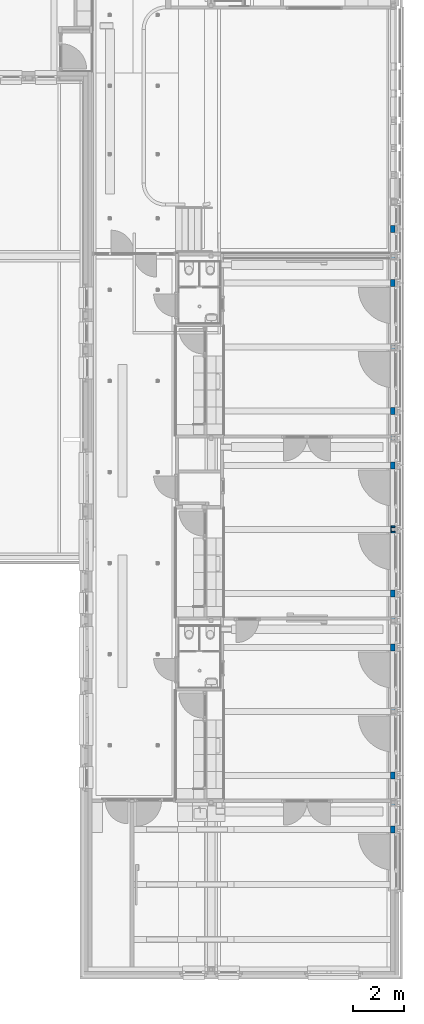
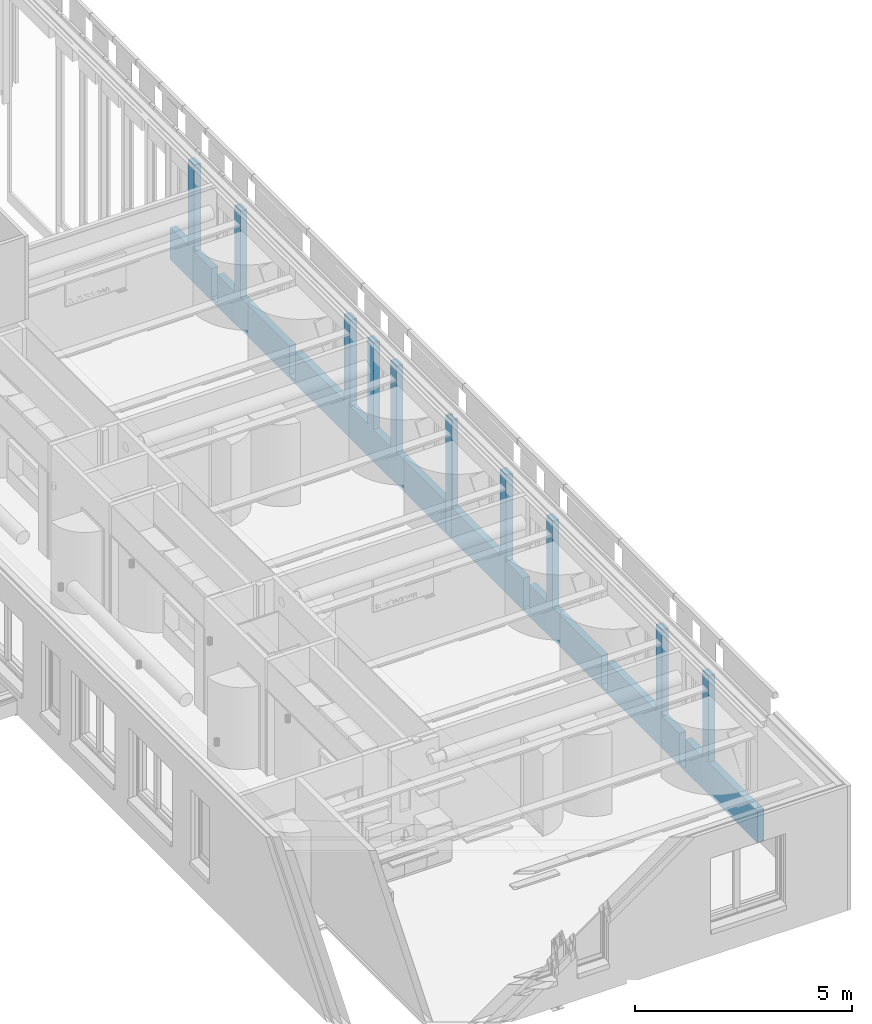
# One storey, part 38 of 128: 4 walls, 47 openings.
"""IFC2X3 building model written with IfcOpenShell, lengths in millimetres."""

import ifcopenshell
import ifcopenshell.guid

model = None  # the IFC model being written
_history = None  # IfcOwnerHistory: only IFC2X3 demands one
_inside = {}  # id of a spatial element -> (the spatial element, [elements in it])
_under = {}  # id of a project, library or spatial element -> (it, [spatial elements below it])
_declared = {}  # id of a project -> (the project, [libraries it declares])
_typed = {}  # id of a type object -> (the type object, [elements of that type])
_made_of = {}  # id of a material, layer set ... -> (it, [elements and type objects made of it])


def new_model(schema):
    """Start an empty IFC model of exactly this schema.

    Asked for "IFC4X3", IfcOpenShell would pick the latest addendum, in which some entities
    have other attributes; the version numbers below select the first issue.
    IFC2X3 requires an IfcOwnerHistory on every rooted entity: one is made here for all.
    """
    global model, _history
    if schema == "IFC4X3":
        model = ifcopenshell.file(schema_version=(4, 3, 0, 0))
    else:
        model = ifcopenshell.file(schema=schema)
    _inside.clear()
    _under.clear()
    _declared.clear()
    _typed.clear()
    _made_of.clear()
    _history = None
    if model.schema == "IFC2X3":
        org = make("IfcOrganization", Name="unknown")
        user = make(
            "IfcPersonAndOrganization",
            ThePerson=make("IfcPerson", FamilyName="unknown"),
            TheOrganization=org,
        )
        app = make(
            "IfcApplication",
            ApplicationDeveloper=org,
            Version="unknown",
            ApplicationFullName="unknown",
            ApplicationIdentifier="unknown",
        )
        _history = make(
            "IfcOwnerHistory",
            OwningUser=user,
            OwningApplication=app,
            ChangeAction="ADDED",
            CreationDate=0,
        )
    return model


def make(cls, **values):
    """One entity of the class cls with the attributes given. An attribute that is None is left unset."""
    return model.create_entity(
        cls, **{name: value for name, value in values.items() if value is not None}
    )


def entity(cls, *values):
    """Any entity or typed value of the class cls, its attributes in the order of the schema. None: left unset."""
    e = model.create_entity(cls)
    for i, value in enumerate(values):
        if value is not None:
            e[i] = value
    return e


def rooted(cls, **values):
    """An entity with a GlobalId (a new one), such as an element, a storey or a relation."""
    return make(cls, GlobalId=ifcopenshell.guid.new(), OwnerHistory=_history, **values)


def si_unit(unit_type, name, prefix=None):
    """IfcSIUnit, for example si_unit("LENGTHUNIT", "METRE", prefix="MILLI")."""
    return make("IfcSIUnit", UnitType=unit_type, Prefix=prefix, Name=name)


def converted_unit(unit_type, name, factor, base, dimensions=None, offset=None):
    """IfcConversionBasedUnit, such as the inch: factor (a typed value) times the base unit."""
    return make(
        "IfcConversionBasedUnit"
        if offset is None
        else "IfcConversionBasedUnitWithOffset",
        ConversionOffset=offset,
        Dimensions=None
        if dimensions is None
        else entity("IfcDimensionalExponents", *dimensions),
        UnitType=unit_type,
        Name=name,
        ConversionFactor=make(
            "IfcMeasureWithUnit", ValueComponent=factor, UnitComponent=base
        ),
    )


def derived_unit(unit_type, elements):
    """IfcDerivedUnit: a product of units, each with its exponent."""
    return make(
        "IfcDerivedUnit",
        Elements=[
            make("IfcDerivedUnitElement", Unit=unit, Exponent=power)
            for unit, power in elements
        ],
        UnitType=unit_type,
    )


def assignment(units):
    """IfcUnitAssignment: the units of a project."""
    return None if units is None else make("IfcUnitAssignment", Units=units)


def point(xyz):
    """IfcCartesianPoint."""
    return None if xyz is None else make("IfcCartesianPoint", Coordinates=xyz)


def direction(xyz):
    """IfcDirection."""
    return None if xyz is None else make("IfcDirection", DirectionRatios=xyz)


def frame(location, z_axis=None, x_axis=None):
    """IfcAxis2Placement3D, a coordinate frame: its origin and axes. An axis left out is left unset."""
    return make(
        "IfcAxis2Placement3D",
        Location=point(location),
        Axis=direction(z_axis),
        RefDirection=direction(x_axis),
    )


def frame_2d(location, x_axis=None):
    """IfcAxis2Placement2D, a coordinate frame in the plane: its origin and x axis."""
    return make(
        "IfcAxis2Placement2D", Location=point(location), RefDirection=direction(x_axis)
    )


def origin():
    """The frame at (0, 0, 0) with its axes left unset."""
    return frame((0.0, 0.0, 0.0))


def origin_2d_with_axis():
    """The frame at (0, 0) in the plane with the x axis (1, 0) written out."""
    return frame_2d((0.0, 0.0), x_axis=(1.0, 0.0))


def place(relative_to, where):
    """IfcLocalPlacement: puts the frame where relative to a parent placement (None: the world)."""
    return make(
        "IfcLocalPlacement", PlacementRelTo=relative_to, RelativePlacement=where
    )


def context(
    kind, dimensions, precision=None, world=None, true_north=None, identifier=None
):
    """IfcGeometricRepresentationContext, for example the 3D "Model" context."""
    return make(
        "IfcGeometricRepresentationContext",
        ContextIdentifier=identifier,
        ContextType=kind,
        CoordinateSpaceDimension=dimensions,
        Precision=precision,
        WorldCoordinateSystem=world,
        TrueNorth=true_north,
    )


def subcontext(parent, identifier, kind, view, scale=None):
    """IfcGeometricRepresentationSubContext, for example "Body" below "Model"."""
    return make(
        "IfcGeometricRepresentationSubContext",
        ContextIdentifier=identifier,
        ContextType=kind,
        ParentContext=parent,
        TargetScale=scale,
        TargetView=view,
    )


def project(units=None, contexts=None):
    """IfcProject with its units and contexts."""
    return rooted(
        "IfcProject",
        Name="project",
        RepresentationContexts=contexts,
        UnitsInContext=assignment(units),
    )


def spatial(cls, under=None, at=None, **own):
    """A site, building, storey or space (cls), placed at a placement, below another one or the project."""
    s = rooted(cls, ObjectPlacement=at, **own)
    if under is not None:
        _under.setdefault(under.id(), (under, []))[1].append(s)
    return s


def profile(cls, at=None, kind="AREA", **sizes):
    """A parametric profile (cls). Its sizes go by their IFC names, for example OverallWidth=200.0."""
    return make(cls, ProfileType=kind, Position=at, **sizes)


def rectangle(**sizes):
    """IfcRectangleProfileDef."""
    return profile("IfcRectangleProfileDef", **sizes)


def extrude(swept, where, along, depth):
    """IfcExtrudedAreaSolid: the profile swept, set in the frame where, extruded along a direction by depth."""
    return make(
        "IfcExtrudedAreaSolid",
        SweptArea=swept,
        Position=where,
        ExtrudedDirection=direction(along),
        Depth=depth,
    )


def shape(context_of_items, identifier, shape_type, items):
    """IfcShapeRepresentation: the items that make up one representation, for example the "Body"."""
    return make(
        "IfcShapeRepresentation",
        ContextOfItems=context_of_items,
        RepresentationIdentifier=identifier,
        RepresentationType=shape_type,
        Items=items,
    )


def material(Name=None, Category=None):
    """IfcMaterial."""
    return make("IfcMaterial", Name=Name, Category=Category)


def layer(
    of_material, thickness, ventilated=None, Name=None, Category=None, Priority=None
):
    """IfcMaterialLayer: one layer of a wall or slab, of a material (None: an air gap)."""
    return make(
        "IfcMaterialLayer",
        Material=of_material,
        LayerThickness=thickness,
        IsVentilated=ventilated,
        Name=Name,
        Category=Category,
        Priority=Priority,
    )


def layer_set(layers, Name=None):
    """IfcMaterialLayerSet."""
    return make("IfcMaterialLayerSet", MaterialLayers=layers, LayerSetName=Name)


def layer_usage(for_layer_set, set_direction, sense, offset, extent=None):
    """IfcMaterialLayerSetUsage: how a layer set lies in its element."""
    return make(
        "IfcMaterialLayerSetUsage",
        ForLayerSet=for_layer_set,
        LayerSetDirection=set_direction,
        DirectionSense=sense,
        OffsetFromReferenceLine=offset,
        ReferenceExtent=extent,
    )


def made_of(thing, what):
    """Note that an element or type object is made of a material, layer set ...; save() writes the relation."""
    if what is not None:
        _made_of.setdefault(what.id(), (what, []))[1].append(thing)
    return thing


def type_object(cls, material=None, **own):
    """A type object (cls), such as IfcWallType, which elements share."""
    return made_of(rooted(cls, **own), material)


def element(
    cls,
    number,
    at=None,
    inside=None,
    cuts=None,
    type_object=None,
    material=None,
    context=None,
    identifier="Body",
    shape_type=None,
    held_by="IfcProductDefinitionShape",
    body=None,
    shapes=None,
    **own,
):
    """One element of the class cls, such as IfcWall. Its Tag is "e" and its number.

    at: its placement. inside: the storey or other place that contains it. cuts: it is an
    opening in that element (IfcRelVoidsElement). A single representation is given by context,
    identifier, shape_type and body (its items); several are given by shapes. held_by: the class
    of the entity that holds the representations. save() writes the other relations.
    """
    e = rooted(cls, Tag="e%d" % number, ObjectPlacement=at, **own)
    if body is not None:
        shapes = [shape(context, identifier, shape_type, body)]
    if shapes is not None:
        e.Representation = make(held_by, Representations=shapes)
    if inside is not None:
        _inside.setdefault(inside.id(), (inside, []))[1].append(e)
    if cuts is not None:
        rooted(
            "IfcRelVoidsElement", RelatingBuildingElement=cuts, RelatedOpeningElement=e
        )
    if type_object is not None:
        _typed.setdefault(type_object.id(), (type_object, []))[1].append(e)
    return made_of(e, material)


def aggregate(whole, parts):
    """IfcRelAggregates: a whole, such as a stair, and the parts it consists of."""
    return rooted("IfcRelAggregates", RelatingObject=whole, RelatedObjects=parts)


def save(model, path):
    """Write the relations noted so far, then the file.

    IfcRelAggregates (storeys below a building ...), IfcRelContainedInSpatialStructure (elements
    in a storey), IfcRelDefinesByType, IfcRelAssociatesMaterial and IfcRelDeclares: one each for
    every whole, place, type object, material and project.
    """
    for whole, parts in _under.values():
        aggregate(whole, parts)
    for where, things in _inside.values():
        rooted(
            "IfcRelContainedInSpatialStructure",
            RelatedElements=things,
            RelatingStructure=where,
        )
    for kind, things in _typed.values():
        rooted("IfcRelDefinesByType", RelatedObjects=things, RelatingType=kind)
    for what, things in _made_of.values():
        rooted("IfcRelAssociatesMaterial", RelatedObjects=things, RelatingMaterial=what)
    for by, libraries in _declared.values():
        rooted("IfcRelDeclares", RelatingContext=by, RelatedDefinitions=libraries)
    model.write(path)


model = new_model("IFC2X3")

# Units and contexts
model_context = context("Model", 3, precision=0.01, world=origin(), true_north=direction((6.123031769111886e-17, 1.0)))
body_context = subcontext(model_context, "Body", "Model", "MODEL_VIEW")
ifc_project = project(units=[si_unit("LENGTHUNIT", "METRE", prefix="MILLI"), si_unit("AREAUNIT", "SQUARE_METRE"), si_unit("VOLUMEUNIT", "CUBIC_METRE"), converted_unit("PLANEANGLEUNIT", "DEGREE", entity("IfcRatioMeasure", 0.017453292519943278), si_unit("PLANEANGLEUNIT", "RADIAN"), dimensions=[0, 0, 0, 0, 0, 0, 0]), si_unit("MASSUNIT", "GRAM", prefix="KILO"), derived_unit("MASSDENSITYUNIT", [(si_unit("MASSUNIT", "GRAM", prefix="KILO"), 1), (si_unit("LENGTHUNIT", "METRE"), -3)]), derived_unit("IONCONCENTRATIONUNIT", [(si_unit("MASSUNIT", "GRAM", prefix="KILO"), 1), (si_unit("LENGTHUNIT", "METRE"), -3)]), derived_unit("MOMENTOFINERTIAUNIT", [(si_unit("LENGTHUNIT", "METRE"), 4)]), si_unit("TIMEUNIT", "SECOND"), si_unit("FREQUENCYUNIT", "HERTZ"), si_unit("THERMODYNAMICTEMPERATUREUNIT", "DEGREE_CELSIUS"), derived_unit("THERMALTRANSMITTANCEUNIT", [(si_unit("MASSUNIT", "GRAM", prefix="KILO"), 1), (si_unit("THERMODYNAMICTEMPERATUREUNIT", "KELVIN"), -1), (si_unit("TIMEUNIT", "SECOND"), -3)]), derived_unit("THERMALCONDUCTANCEUNIT", [(si_unit("MASSUNIT", "GRAM", prefix="KILO"), 1), (si_unit("THERMODYNAMICTEMPERATUREUNIT", "KELVIN"), -1), (si_unit("TIMEUNIT", "SECOND"), -3), (si_unit("LENGTHUNIT", "METRE"), 1)]), derived_unit("VOLUMETRICFLOWRATEUNIT", [(si_unit("LENGTHUNIT", "METRE"), 3), (si_unit("TIMEUNIT", "SECOND"), -1)]), derived_unit("MASSFLOWRATEUNIT", [(si_unit("MASSUNIT", "GRAM", prefix="KILO"), 1), (si_unit("TIMEUNIT", "SECOND"), -1)]), derived_unit("ROTATIONALFREQUENCYUNIT", [(si_unit("TIMEUNIT", "SECOND"), -1)]), si_unit("ELECTRICCURRENTUNIT", "AMPERE"), si_unit("ELECTRICVOLTAGEUNIT", "VOLT"), si_unit("POWERUNIT", "WATT"), si_unit("FORCEUNIT", "NEWTON", prefix="KILO"), si_unit("ILLUMINANCEUNIT", "LUX"), si_unit("LUMINOUSFLUXUNIT", "LUMEN"), si_unit("LUMINOUSINTENSITYUNIT", "CANDELA"), derived_unit("USERDEFINED", [(si_unit("MASSUNIT", "GRAM", prefix="KILO"), -1), (si_unit("LENGTHUNIT", "METRE"), -2), (si_unit("TIMEUNIT", "SECOND"), 3), (si_unit("LUMINOUSFLUXUNIT", "LUMEN"), 1)]), derived_unit("USERDEFINED", [(si_unit("MASSUNIT", "GRAM", prefix="KILO"), 1), (si_unit("TIMEUNIT", "SECOND"), -3), (si_unit("LENGTHUNIT", "METRE"), 3), (si_unit("ELECTRICCURRENTUNIT", "AMPERE"), -2)]), derived_unit("SOUNDPOWERUNIT", [(si_unit("MASSUNIT", "GRAM", prefix="KILO"), 1), (si_unit("TIMEUNIT", "SECOND"), -3), (si_unit("LENGTHUNIT", "METRE"), 2)]), derived_unit("SOUNDPRESSUREUNIT", [(si_unit("MASSUNIT", "GRAM", prefix="KILO"), 1), (si_unit("LENGTHUNIT", "METRE"), -1), (si_unit("TIMEUNIT", "SECOND"), -2)]), derived_unit("LINEARVELOCITYUNIT", [(si_unit("LENGTHUNIT", "METRE"), 1), (si_unit("TIMEUNIT", "SECOND"), -1)]), si_unit("PRESSUREUNIT", "PASCAL"), derived_unit("USERDEFINED", [(si_unit("MASSUNIT", "GRAM", prefix="KILO"), 1), (si_unit("LENGTHUNIT", "METRE"), -2), (si_unit("TIMEUNIT", "SECOND"), -2)]), derived_unit("LINEARFORCEUNIT", [(si_unit("MASSUNIT", "GRAM", prefix="KILO"), 1), (si_unit("TIMEUNIT", "SECOND"), -2)]), derived_unit("PLANARFORCEUNIT", [(si_unit("MASSUNIT", "GRAM", prefix="KILO"), 1), (si_unit("LENGTHUNIT", "METRE"), -1), (si_unit("TIMEUNIT", "SECOND"), -2)]), derived_unit("SPECIFICHEATCAPACITYUNIT", [(si_unit("THERMODYNAMICTEMPERATUREUNIT", "KELVIN"), -1), (si_unit("LENGTHUNIT", "METRE"), 2), (si_unit("TIMEUNIT", "SECOND"), -2)]), derived_unit("HEATINGVALUEUNIT", [(si_unit("LENGTHUNIT", "METRE"), 2), (si_unit("TIMEUNIT", "SECOND"), -2)]), derived_unit("VAPORPERMEABILITYUNIT", [(si_unit("LENGTHUNIT", "METRE"), -1), (si_unit("TIMEUNIT", "SECOND"), 1)]), derived_unit("DYNAMICVISCOSITYUNIT", [(si_unit("MASSUNIT", "GRAM", prefix="KILO"), 1), (si_unit("TIMEUNIT", "SECOND"), -1), (si_unit("LENGTHUNIT", "METRE"), -1)]), derived_unit("THERMALEXPANSIONCOEFFICIENTUNIT", [(si_unit("THERMODYNAMICTEMPERATUREUNIT", "KELVIN"), -1)]), derived_unit("MODULUSOFELASTICITYUNIT", [(si_unit("MASSUNIT", "GRAM", prefix="KILO"), 1), (si_unit("LENGTHUNIT", "METRE"), -1), (si_unit("TIMEUNIT", "SECOND"), -2)]), derived_unit("ISOTHERMALMOISTURECAPACITYUNIT", [(si_unit("LENGTHUNIT", "METRE"), 3), (si_unit("MASSUNIT", "GRAM", prefix="KILO"), -1)]), derived_unit("MOISTUREDIFFUSIVITYUNIT", [(si_unit("TIMEUNIT", "SECOND"), -1), (si_unit("LENGTHUNIT", "METRE"), 2)])], contexts=[model_context])

# Site, building, storey
site_placement = place(None, frame((0.0, 300.0, 0.0)))
site = spatial("IfcSite", under=ifc_project, at=site_placement, Name="<Kadastrale nummers>", CompositionType="ELEMENT")
building_placement = place(site_placement, origin())
building = spatial("IfcBuilding", under=site, at=building_placement, CompositionType="ELEMENT")
storey_placement = place(building_placement, frame((0.0, 0.0, 3560.0000331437)))
storey = spatial("IfcBuildingStorey", under=building, at=storey_placement, Name="01 eerste verdieping", CompositionType="ELEMENT", Elevation=3560.0000331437)

# Wall
ifc_material_1 = material(Name="ISR_Gips")
ifc_layer_1 = layer(ifc_material_1, 1.0)
ifc_material_2 = material(Name="ISR_Binnenwand")
ifc_layer_2 = layer(ifc_material_2, 23.0)
ifc_layer_3 = layer(ifc_material_1, 1.0)
ifc_layer_set_1 = layer_set([ifc_layer_1, ifc_layer_2, ifc_layer_3], Name="Basic Wall:22_DAT_binnenwand_25")
ifc_layer_usage_1 = layer_usage(ifc_layer_set_1, "AXIS2", "POSITIVE", -12.499999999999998)
wall_type_1 = type_object("IfcWallType", Name="Basic Wall:22_DAT_binnenwand_25", PredefinedType="STANDARD", material=ifc_layer_set_1)
wall_1_placement = place(storey_placement, frame((48512.49999999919, 19960.0, 90.00000187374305), z_axis=(0.0, 0.0, 1.0), x_axis=(0.0, 1.0, 0.0)))
element("IfcWallStandardCase", 1, at=wall_1_placement, inside=storey, type_object=wall_type_1, material=ifc_layer_usage_1, Name="Basic Wall:22_DAT_binnenwand_25", ObjectType="Basic Wall:22_DAT_binnenwand_25", context=body_context, shape_type="SweptSolid", body=[
    extrude(rectangle(XDim=279.99999999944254, YDim=24.999999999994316, at=frame_2d((139.9999999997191, 7.194245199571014e-14), x_axis=(-1.0, 0.0))), origin(), (0.0, 0.0, 1.0), 3240.000000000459),
])

# Wall, openings
ifc_layer_4 = layer(ifc_material_1, 1.0)
ifc_material_3 = material(Name="ISR_Kalkzandsteen")
ifc_layer_5 = layer(ifc_material_3, 173.0)
ifc_layer_6 = layer(ifc_material_1, 1.0)
ifc_layer_set_2 = layer_set([ifc_layer_4, ifc_layer_5, ifc_layer_6], Name="Basic Wall:28_DAT_kalkzandsteen_175mm")
ifc_layer_usage_2 = layer_usage(ifc_layer_set_2, "AXIS2", "POSITIVE", -87.49999999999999)
wall_type_2 = type_object("IfcWallType", Name="Basic Wall:28_DAT_kalkzandsteen_175mm", PredefinedType="STANDARD", material=ifc_layer_set_2)
wall_2_placement = place(storey_placement, frame((48587.50000000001, 5840.0, 0.0), z_axis=(0.0, 0.0, 1.0), x_axis=(0.0, 1.0, 0.0)))
wall_2 = element("IfcWallStandardCase", 2, at=wall_2_placement, inside=storey, type_object=wall_type_2, material=ifc_layer_usage_2, Name="Basic Wall:28_DAT_kalkzandsteen_175mm", ObjectType="Basic Wall:28_DAT_kalkzandsteen_175mm", context=body_context, shape_type="SweptSolid", body=[
    extrude(rectangle(XDim=27105.00000000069, YDim=175.00000000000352, at=frame_2d((13552.500000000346, -4.334310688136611e-12), x_axis=(-1.0, 0.0))), origin(), (0.0, 0.0, 1.0), 3330.0000018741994),
])
opening_1_placement = place(wall_2_placement, origin())
element("IfcOpeningElement", 3, at=opening_1_placement, cuts=wall_2, Name="Basic Wall:28_DAT_kalkzandsteen_175mm", ObjectType="Opening", context=body_context, shape_type="SweptSolid", body=[
    extrude(rectangle(XDim=1929.9999649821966, YDim=2249.9999999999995, at=frame_2d((-2.8421709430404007e-13, 0.0), x_axis=(1.0, 0.0))), frame((1125.0, -239.90000000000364, 1864.9999843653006), z_axis=(0.0, 1.0, 0.0), x_axis=(0.0, 0.0, 1.0)), (0.0, 0.0, 1.0), 479.80000000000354),
])
opening_2_placement = place(wall_2_placement, origin())
element("IfcOpeningElement", 4, at=opening_2_placement, cuts=wall_2, Name="Basic Wall:28_DAT_kalkzandsteen_175mm", ObjectType="Opening", context=body_context, shape_type="SweptSolid", body=[
    extrude(rectangle(XDim=1929.9999649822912, YDim=789.999999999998, at=origin_2d_with_axis()), frame((3995.0, -239.89999999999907, 1864.9999843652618), z_axis=(0.0, 1.0, 0.0), x_axis=(0.0, 0.0, 1.0)), (0.0, 0.0, 1.0), 479.80000000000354),
])
opening_3_placement = place(wall_2_placement, origin())
element("IfcOpeningElement", 5, at=opening_3_placement, cuts=wall_2, Name="Basic Wall:28_DAT_kalkzandsteen_175mm", ObjectType="Opening", context=body_context, shape_type="SweptSolid", body=[
    extrude(rectangle(XDim=500.000064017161, YDim=790.0000000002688, at=frame_2d((1.0800249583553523e-12, -1.0800249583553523e-12), x_axis=(0.0, 1.0))), frame((3995.0, -239.89999999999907, 3080.0), z_axis=(0.0, 1.0, 0.0), x_axis=(-1.0, 0.0, 0.0)), (0.0, 0.0, 1.0), 479.80000000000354),
])
opening_4_placement = place(wall_2_placement, origin())
element("IfcOpeningElement", 6, at=opening_4_placement, cuts=wall_2, Name="Basic Wall:28_DAT_kalkzandsteen_175mm", ObjectType="Opening", context=body_context, shape_type="SweptSolid", body=[
    extrude(rectangle(XDim=1929.9999649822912, YDim=790.0000000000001, at=frame_2d((0.0, 1.0800249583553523e-12), x_axis=(1.0, 0.0))), frame((2933.0, -239.90000000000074, 1864.9999843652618), z_axis=(0.0, 1.0, 0.0), x_axis=(0.0, 0.0, 1.0)), (0.0, 0.0, 1.0), 479.80000000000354),
])
opening_5_placement = place(wall_2_placement, origin())
element("IfcOpeningElement", 7, at=opening_5_placement, cuts=wall_2, Name="Basic Wall:28_DAT_kalkzandsteen_175mm", ObjectType="Opening", context=body_context, shape_type="SweptSolid", body=[
    extrude(rectangle(XDim=500.000064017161, YDim=790.0000000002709, at=frame_2d((-1.0800249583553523e-12, -1.0800249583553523e-12), x_axis=(0.0, 1.0))), frame((2925.0, -239.90000000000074, 3080.0), z_axis=(0.0, 1.0, 0.0), x_axis=(-1.0, 0.0, 0.0)), (0.0, 0.0, 1.0), 479.80000000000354),
])
opening_6_placement = place(wall_2_placement, origin())
element("IfcOpeningElement", 8, at=opening_6_placement, cuts=wall_2, Name="Basic Wall:28_DAT_kalkzandsteen_175mm", ObjectType="Opening", context=body_context, shape_type="SweptSolid", body=[
    extrude(rectangle(XDim=1929.9999649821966, YDim=2249.9999999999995, at=frame_2d((-2.8421709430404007e-13, 0.0), x_axis=(1.0, 0.0))), frame((5795.0, -239.90000000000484, 1864.9999843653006), z_axis=(0.0, 1.0, 0.0), x_axis=(0.0, 0.0, 1.0)), (0.0, 0.0, 1.0), 479.80000000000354),
])
opening_7_placement = place(wall_2_placement, origin())
element("IfcOpeningElement", 9, at=opening_7_placement, cuts=wall_2, Name="Basic Wall:28_DAT_kalkzandsteen_175mm", ObjectType="Opening", context=body_context, shape_type="SweptSolid", body=[
    extrude(rectangle(XDim=500.00003087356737, YDim=2249.99999999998, at=frame_2d((-1.5916157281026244e-12, 0.0), x_axis=(0.0, 1.0))), frame((1125.0, -239.90000000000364, 3080.0000154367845), z_axis=(0.0, 1.0, 0.0), x_axis=(-1.0, 0.0, 0.0)), (0.0, 0.0, 1.0), 479.80000000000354),
])
opening_8_placement = place(wall_2_placement, origin())
element("IfcOpeningElement", 10, at=opening_8_placement, cuts=wall_2, Name="Basic Wall:28_DAT_kalkzandsteen_175mm", ObjectType="Opening", context=body_context, shape_type="SweptSolid", body=[
    extrude(rectangle(XDim=500.00003087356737, YDim=2249.999999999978, at=frame_2d((0.0, 0.0), x_axis=(0.0, 1.0))), frame((5795.0, -239.90000000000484, 3080.0000154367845), z_axis=(0.0, 1.0, 0.0), x_axis=(-1.0, 0.0, 0.0)), (0.0, 0.0, 1.0), 479.80000000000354),
])
opening_9_placement = place(wall_2_placement, origin())
element("IfcOpeningElement", 11, at=opening_9_placement, cuts=wall_2, Name="Basic Wall:28_DAT_kalkzandsteen_175mm", ObjectType="Opening", context=body_context, shape_type="SweptSolid", body=[
    extrude(rectangle(XDim=1929.9999649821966, YDim=2249.9999999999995, at=frame_2d((-2.8421709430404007e-13, 0.0), x_axis=(1.0, 0.0))), frame((8325.0, -239.9000000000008, 1864.9999843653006), z_axis=(0.0, 1.0, 0.0), x_axis=(0.0, 0.0, 1.0)), (0.0, 0.0, 1.0), 479.80000000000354),
])
opening_10_placement = place(wall_2_placement, origin())
element("IfcOpeningElement", 12, at=opening_10_placement, cuts=wall_2, Name="Basic Wall:28_DAT_kalkzandsteen_175mm", ObjectType="Opening", context=body_context, shape_type="SweptSolid", body=[
    extrude(rectangle(XDim=500.00003087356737, YDim=2249.999999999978, at=frame_2d((-2.1600499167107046e-12, 0.0), x_axis=(0.0, 1.0))), frame((8325.0, -239.9000000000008, 3080.0000154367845), z_axis=(0.0, 1.0, 0.0), x_axis=(-1.0, 0.0, 0.0)), (0.0, 0.0, 1.0), 479.80000000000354),
])
opening_11_placement = place(wall_2_placement, origin())
element("IfcOpeningElement", 13, at=opening_11_placement, cuts=wall_2, Name="Basic Wall:28_DAT_kalkzandsteen_175mm", ObjectType="Opening", context=body_context, shape_type="SweptSolid", body=[
    extrude(rectangle(XDim=1929.9999649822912, YDim=790.0000000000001, at=frame_2d((0.0, 1.0800249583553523e-12), x_axis=(1.0, 0.0))), frame((10125.0, -239.8999999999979, 1864.9999843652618), z_axis=(0.0, 1.0, 0.0), x_axis=(0.0, 0.0, 1.0)), (0.0, 0.0, 1.0), 479.80000000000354),
])
opening_12_placement = place(wall_2_placement, origin())
element("IfcOpeningElement", 14, at=opening_12_placement, cuts=wall_2, Name="Basic Wall:28_DAT_kalkzandsteen_175mm", ObjectType="Opening", context=body_context, shape_type="SweptSolid", body=[
    extrude(rectangle(XDim=500.000064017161, YDim=790.0000000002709, at=frame_2d((0.0, -1.0800249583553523e-12), x_axis=(0.0, 1.0))), frame((10125.0, -239.8999999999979, 3080.0), z_axis=(0.0, 1.0, 0.0), x_axis=(-1.0, 0.0, 0.0)), (0.0, 0.0, 1.0), 479.80000000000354),
])
opening_13_placement = place(wall_2_placement, origin())
element("IfcOpeningElement", 15, at=opening_13_placement, cuts=wall_2, Name="Basic Wall:28_DAT_kalkzandsteen_175mm", ObjectType="Opening", context=body_context, shape_type="SweptSolid", body=[
    extrude(rectangle(XDim=1929.9999649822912, YDim=789.999999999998, at=frame_2d((0.0, 2.1600499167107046e-12), x_axis=(1.0, 0.0))), frame((11195.0, -239.9000000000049, 1864.9999843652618), z_axis=(0.0, 1.0, 0.0), x_axis=(0.0, 0.0, 1.0)), (0.0, 0.0, 1.0), 479.80000000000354),
])
opening_14_placement = place(wall_2_placement, origin())
element("IfcOpeningElement", 16, at=opening_14_placement, cuts=wall_2, Name="Basic Wall:28_DAT_kalkzandsteen_175mm", ObjectType="Opening", context=body_context, shape_type="SweptSolid", body=[
    extrude(rectangle(XDim=1929.9999649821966, YDim=2249.9999999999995, at=frame_2d((-2.8421709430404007e-13, 0.0), x_axis=(1.0, 0.0))), frame((12995.0, -239.900000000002, 1864.9999843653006), z_axis=(0.0, 1.0, 0.0), x_axis=(0.0, 0.0, 1.0)), (0.0, 0.0, 1.0), 479.80000000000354),
])
opening_15_placement = place(wall_2_placement, origin())
element("IfcOpeningElement", 17, at=opening_15_placement, cuts=wall_2, Name="Basic Wall:28_DAT_kalkzandsteen_175mm", ObjectType="Opening", context=body_context, shape_type="SweptSolid", body=[
    extrude(rectangle(XDim=500.000064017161, YDim=790.0000000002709, at=frame_2d((0.0, -1.0800249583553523e-12), x_axis=(0.0, 1.0))), frame((11195.0, -239.9000000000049, 3080.0), z_axis=(0.0, 1.0, 0.0), x_axis=(-1.0, 0.0, 0.0)), (0.0, 0.0, 1.0), 479.80000000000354),
])
opening_16_placement = place(wall_2_placement, origin())
element("IfcOpeningElement", 18, at=opening_16_placement, cuts=wall_2, Name="Basic Wall:28_DAT_kalkzandsteen_175mm", ObjectType="Opening", context=body_context, shape_type="SweptSolid", body=[
    extrude(rectangle(XDim=500.00003087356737, YDim=2249.999999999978, at=frame_2d((-2.1600499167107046e-12, 0.0), x_axis=(0.0, 1.0))), frame((12995.0, -239.900000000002, 3080.0000154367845), z_axis=(0.0, 1.0, 0.0), x_axis=(-1.0, 0.0, 0.0)), (0.0, 0.0, 1.0), 479.80000000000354),
])
opening_17_placement = place(wall_2_placement, origin())
element("IfcOpeningElement", 19, at=opening_17_placement, cuts=wall_2, Name="Basic Wall:28_DAT_kalkzandsteen_175mm", ObjectType="Opening", context=body_context, shape_type="SweptSolid", body=[
    extrude(rectangle(XDim=1929.9999649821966, YDim=2249.9999999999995, at=frame_2d((-2.8421709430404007e-13, 0.0), x_axis=(1.0, 0.0))), frame((15525.0, -239.9000000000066, 1864.9999843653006), z_axis=(0.0, 1.0, 0.0), x_axis=(0.0, 0.0, 1.0)), (0.0, 0.0, 1.0), 479.80000000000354),
])
opening_18_placement = place(wall_2_placement, origin())
element("IfcOpeningElement", 20, at=opening_18_placement, cuts=wall_2, Name="Basic Wall:28_DAT_kalkzandsteen_175mm", ObjectType="Opening", context=body_context, shape_type="SweptSolid", body=[
    extrude(rectangle(XDim=1929.9999649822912, YDim=789.999999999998, at=frame_2d((0.0, -2.1600499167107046e-12), x_axis=(1.0, 0.0))), frame((17325.0, -239.90000000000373, 1864.9999843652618), z_axis=(0.0, 1.0, 0.0), x_axis=(0.0, 0.0, 1.0)), (0.0, 0.0, 1.0), 479.80000000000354),
])
opening_19_placement = place(wall_2_placement, origin())
element("IfcOpeningElement", 21, at=opening_19_placement, cuts=wall_2, Name="Basic Wall:28_DAT_kalkzandsteen_175mm", ObjectType="Opening", context=body_context, shape_type="SweptSolid", body=[
    extrude(rectangle(XDim=500.00003087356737, YDim=2249.999999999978, at=frame_2d((2.1600499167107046e-12, 0.0), x_axis=(0.0, 1.0))), frame((15525.0, -239.9000000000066, 3080.0000154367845), z_axis=(0.0, 1.0, 0.0), x_axis=(-1.0, 0.0, 0.0)), (0.0, 0.0, 1.0), 479.80000000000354),
])
opening_20_placement = place(wall_2_placement, origin())
element("IfcOpeningElement", 22, at=opening_20_placement, cuts=wall_2, Name="Basic Wall:28_DAT_kalkzandsteen_175mm", ObjectType="Opening", context=body_context, shape_type="SweptSolid", body=[
    extrude(rectangle(XDim=500.000064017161, YDim=790.0000000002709, at=frame_2d((0.0, -1.0800249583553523e-12), x_axis=(0.0, 1.0))), frame((17325.0, -239.90000000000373, 3080.0), z_axis=(0.0, 1.0, 0.0), x_axis=(-1.0, 0.0, 0.0)), (0.0, 0.0, 1.0), 479.80000000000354),
])
opening_21_placement = place(wall_2_placement, origin())
element("IfcOpeningElement", 23, at=opening_21_placement, cuts=wall_2, Name="Basic Wall:28_DAT_kalkzandsteen_175mm", ObjectType="Opening", context=body_context, shape_type="SweptSolid", body=[
    extrude(rectangle(XDim=1929.9999649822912, YDim=789.999999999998, at=frame_2d((0.0, 2.1600499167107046e-12), x_axis=(1.0, 0.0))), frame((18395.0, -239.90000000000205, 1864.9999843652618), z_axis=(0.0, 1.0, 0.0), x_axis=(0.0, 0.0, 1.0)), (0.0, 0.0, 1.0), 479.80000000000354),
])
opening_22_placement = place(wall_2_placement, origin())
element("IfcOpeningElement", 24, at=opening_22_placement, cuts=wall_2, Name="Basic Wall:28_DAT_kalkzandsteen_175mm", ObjectType="Opening", context=body_context, shape_type="SweptSolid", body=[
    extrude(rectangle(XDim=1929.9999649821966, YDim=2249.9999999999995, at=frame_2d((-2.8421709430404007e-13, 0.0), x_axis=(1.0, 0.0))), frame((20195.0, -239.89999999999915, 1864.9999843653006), z_axis=(0.0, 1.0, 0.0), x_axis=(0.0, 0.0, 1.0)), (0.0, 0.0, 1.0), 479.80000000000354),
])
opening_23_placement = place(wall_2_placement, origin())
element("IfcOpeningElement", 25, at=opening_23_placement, cuts=wall_2, Name="Basic Wall:28_DAT_kalkzandsteen_175mm", ObjectType="Opening", context=body_context, shape_type="SweptSolid", body=[
    extrude(rectangle(XDim=500.000064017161, YDim=790.0000000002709, at=frame_2d((0.0, -1.0800249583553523e-12), x_axis=(0.0, 1.0))), frame((18395.0, -239.90000000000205, 3080.0), z_axis=(0.0, 1.0, 0.0), x_axis=(-1.0, 0.0, 0.0)), (0.0, 0.0, 1.0), 479.80000000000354),
])
opening_24_placement = place(wall_2_placement, origin())
element("IfcOpeningElement", 26, at=opening_24_placement, cuts=wall_2, Name="Basic Wall:28_DAT_kalkzandsteen_175mm", ObjectType="Opening", context=body_context, shape_type="SweptSolid", body=[
    extrude(rectangle(XDim=500.00003087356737, YDim=2249.999999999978, at=frame_2d((2.1600499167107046e-12, 0.0), x_axis=(0.0, 1.0))), frame((20195.0, -239.89999999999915, 3080.0000154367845), z_axis=(0.0, 1.0, 0.0), x_axis=(-1.0, 0.0, 0.0)), (0.0, 0.0, 1.0), 479.80000000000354),
])
opening_25_placement = place(wall_2_placement, origin())
element("IfcOpeningElement", 27, at=opening_25_placement, cuts=wall_2, Name="Basic Wall:28_DAT_kalkzandsteen_175mm", ObjectType="Opening", context=body_context, shape_type="SweptSolid", body=[
    extrude(rectangle(XDim=1929.9999649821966, YDim=2249.9999999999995, at=frame_2d((-2.8421709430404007e-13, 4.320099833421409e-12), x_axis=(1.0, 0.0))), frame((22725.0, -239.90000000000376, 1864.9999843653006), z_axis=(0.0, 1.0, 0.0), x_axis=(0.0, 0.0, 1.0)), (0.0, 0.0, 1.0), 479.80000000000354),
])
opening_26_placement = place(wall_2_placement, origin())
element("IfcOpeningElement", 28, at=opening_26_placement, cuts=wall_2, Name="Basic Wall:28_DAT_kalkzandsteen_175mm", ObjectType="Opening", context=body_context, shape_type="SweptSolid", body=[
    extrude(rectangle(XDim=1929.9999649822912, YDim=789.999999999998, at=frame_2d((0.0, -2.1600499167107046e-12), x_axis=(1.0, 0.0))), frame((24525.0, -239.9000000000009, 1864.9999843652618), z_axis=(0.0, 1.0, 0.0), x_axis=(0.0, 0.0, 1.0)), (0.0, 0.0, 1.0), 479.80000000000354),
])
opening_27_placement = place(wall_2_placement, origin())
element("IfcOpeningElement", 29, at=opening_27_placement, cuts=wall_2, Name="Basic Wall:28_DAT_kalkzandsteen_175mm", ObjectType="Opening", context=body_context, shape_type="SweptSolid", body=[
    extrude(rectangle(XDim=500.00003087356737, YDim=2249.999999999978, at=frame_2d((-2.1600499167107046e-12, 0.0), x_axis=(0.0, 1.0))), frame((22725.0, -239.90000000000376, 3080.0000154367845), z_axis=(0.0, 1.0, 0.0), x_axis=(-1.0, 0.0, 0.0)), (0.0, 0.0, 1.0), 479.80000000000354),
])
opening_28_placement = place(wall_2_placement, origin())
element("IfcOpeningElement", 30, at=opening_28_placement, cuts=wall_2, Name="Basic Wall:28_DAT_kalkzandsteen_175mm", ObjectType="Opening", context=body_context, shape_type="SweptSolid", body=[
    extrude(rectangle(XDim=500.000064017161, YDim=790.0000000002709, at=frame_2d((0.0, -1.0800249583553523e-12), x_axis=(0.0, 1.0))), frame((24525.0, -239.9000000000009, 3080.0), z_axis=(0.0, 1.0, 0.0), x_axis=(-1.0, 0.0, 0.0)), (0.0, 0.0, 1.0), 479.80000000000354),
])
opening_29_placement = place(wall_2_placement, origin())
element("IfcOpeningElement", 31, at=opening_29_placement, cuts=wall_2, Name="Basic Wall:28_DAT_kalkzandsteen_175mm", ObjectType="Opening", context=body_context, shape_type="SweptSolid", body=[
    extrude(rectangle(XDim=1929.9999649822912, YDim=789.999999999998, at=frame_2d((0.0, 2.1600499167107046e-12), x_axis=(1.0, 0.0))), frame((25595.0, -239.8999999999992, 1864.9999843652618), z_axis=(0.0, 1.0, 0.0), x_axis=(0.0, 0.0, 1.0)), (0.0, 0.0, 1.0), 479.80000000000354),
])
opening_30_placement = place(wall_2_placement, origin())
element("IfcOpeningElement", 32, at=opening_30_placement, cuts=wall_2, Name="Basic Wall:28_DAT_kalkzandsteen_175mm", ObjectType="Opening", context=body_context, shape_type="SweptSolid", body=[
    extrude(rectangle(XDim=1929.9999649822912, YDim=789.999999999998, at=frame_2d((0.0, 2.1600499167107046e-12), x_axis=(1.0, 0.0))), frame((26665.0, -239.90000000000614, 1864.9999843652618), z_axis=(0.0, 1.0, 0.0), x_axis=(0.0, 0.0, 1.0)), (0.0, 0.0, 1.0), 479.80000000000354),
])
opening_31_placement = place(wall_2_placement, origin())
element("IfcOpeningElement", 33, at=opening_31_placement, cuts=wall_2, Name="Basic Wall:28_DAT_kalkzandsteen_175mm", ObjectType="Opening", context=body_context, shape_type="SweptSolid", body=[
    extrude(rectangle(XDim=500.000064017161, YDim=790.0000000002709, at=frame_2d((0.0, -1.0800249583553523e-12), x_axis=(0.0, 1.0))), frame((25595.0, -239.8999999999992, 3080.0), z_axis=(0.0, 1.0, 0.0), x_axis=(-1.0, 0.0, 0.0)), (0.0, 0.0, 1.0), 479.80000000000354),
])
opening_32_placement = place(wall_2_placement, origin())
element("IfcOpeningElement", 34, at=opening_32_placement, cuts=wall_2, Name="Basic Wall:28_DAT_kalkzandsteen_175mm", ObjectType="Opening", context=body_context, shape_type="SweptSolid", body=[
    extrude(rectangle(XDim=2430.0000289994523, YDim=44.99999999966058, at=frame_2d((0.0, 0.0), x_axis=(0.0, 1.0))), frame((27082.500000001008, -239.90000000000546, 2115.0000163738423), z_axis=(0.0, 1.0, 0.0), x_axis=(-1.0, 0.0, 0.0)), (0.0, 0.0, 1.0), 479.80000000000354),
])
opening_33_placement = place(wall_2_placement, origin())
element("IfcOpeningElement", 35, at=opening_33_placement, cuts=wall_2, Name="Basic Wall:28_DAT_kalkzandsteen_175mm", ObjectType="Opening", context=body_context, shape_type="SweptSolid", body=[
    extrude(rectangle(XDim=500.000064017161, YDim=790.0000000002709, at=frame_2d((0.0, -1.0800249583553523e-12), x_axis=(0.0, 1.0))), frame((26665.0, -239.90000000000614, 3080.0), z_axis=(0.0, 1.0, 0.0), x_axis=(-1.0, 0.0, 0.0)), (0.0, 0.0, 1.0), 479.80000000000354),
])
opening_34_placement = place(wall_2_placement, origin())
element("IfcOpeningElement", 36, at=opening_34_placement, cuts=wall_2, Name="Basic Wall:28_DAT_kalkzandsteen_175mm", ObjectType="Opening", context=body_context, shape_type="SweptSolid", body=[
    extrude(rectangle(XDim=3240.0000000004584, YDim=279.99999999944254, at=frame_2d((2.2737367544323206e-13, 0.0), x_axis=(1.0, 0.0))), frame((14260.0, -239.89999999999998, 1710.0), z_axis=(0.0, 1.0, 0.0), x_axis=(0.0, 0.0, 1.0)), (0.0, 0.0, 1.0), 479.80000000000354),
])
opening_35_placement = place(wall_2_placement, origin())
element("IfcOpeningElement", 37, at=opening_35_placement, cuts=wall_2, Name="Basic Wall:28_DAT_kalkzandsteen_175mm", ObjectType="Opening", context=body_context, shape_type="SweptSolid", body=[
    extrude(rectangle(XDim=3240.0000000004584, YDim=279.99999999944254, at=frame_2d((2.2737367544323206e-13, 0.0), x_axis=(1.0, 0.0))), frame((7060.0, -239.90000000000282, 1710.0), z_axis=(0.0, 1.0, 0.0), x_axis=(0.0, 0.0, 1.0)), (0.0, 0.0, 1.0), 479.80000000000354),
])
opening_36_placement = place(wall_2_placement, origin())
element("IfcOpeningElement", 38, at=opening_36_placement, cuts=wall_2, Name="Basic Wall:28_DAT_kalkzandsteen_175mm", ObjectType="Opening", context=body_context, shape_type="SweptSolid", body=[
    extrude(rectangle(XDim=3240.0000000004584, YDim=279.9999999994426, at=frame_2d((2.2737367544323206e-13, -4.334310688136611e-12), x_axis=(1.0, 0.0))), frame((21460.0, -239.89999999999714, 1710.0), z_axis=(0.0, 1.0, 0.0), x_axis=(0.0, 0.0, 1.0)), (0.0, 0.0, 1.0), 479.80000000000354),
])
opening_37_placement = place(wall_2_placement, origin())
element("IfcOpeningElement", 39, at=opening_37_placement, cuts=wall_2, Name="Basic Wall:28_DAT_kalkzandsteen_175mm", ObjectType="Opening", context=body_context, shape_type="SweptSolid", body=[
    extrude(rectangle(XDim=2429.9999999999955, YDim=59.99999999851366, at=frame_2d((0.0, 0.0), x_axis=(0.0, 1.0))), frame((24950.0, -239.9000000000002, 2115.0), z_axis=(0.0, 1.0, 0.0), x_axis=(-1.0, 0.0, 0.0)), (0.0, 0.0, 1.0), 479.80000000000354),
])
opening_38_placement = place(wall_2_placement, origin())
element("IfcOpeningElement", 40, at=opening_38_placement, cuts=wall_2, Name="Basic Wall:28_DAT_kalkzandsteen_175mm", ObjectType="Opening", context=body_context, shape_type="SweptSolid", body=[
    extrude(rectangle(XDim=3240.0000000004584, YDim=279.99999999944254, at=frame_2d((2.2737367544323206e-13, 0.0), x_axis=(1.0, 0.0))), frame((25060.0, -239.90000000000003, 1710.0), z_axis=(0.0, 1.0, 0.0), x_axis=(0.0, 0.0, 1.0)), (0.0, 0.0, 1.0), 479.80000000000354),
])
opening_39_placement = place(wall_2_placement, origin())
element("IfcOpeningElement", 41, at=opening_39_placement, cuts=wall_2, Name="Basic Wall:28_DAT_kalkzandsteen_175mm", ObjectType="Opening", context=body_context, shape_type="SweptSolid", body=[
    extrude(rectangle(XDim=2429.9999999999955, YDim=59.99999999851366, at=frame_2d((0.0, 0.0), x_axis=(0.0, 1.0))), frame((14150.0, -239.90000000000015, 2115.0), z_axis=(0.0, 1.0, 0.0), x_axis=(-1.0, 0.0, 0.0)), (0.0, 0.0, 1.0), 479.80000000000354),
])
opening_40_placement = place(wall_2_placement, origin())
element("IfcOpeningElement", 42, at=opening_40_placement, cuts=wall_2, Name="Basic Wall:28_DAT_kalkzandsteen_175mm", ObjectType="Opening", context=body_context, shape_type="SweptSolid", body=[
    extrude(rectangle(XDim=2429.9999999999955, YDim=60.00000000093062, at=origin_2d_with_axis()), frame((14370.0, -239.8999999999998, 2115.0), z_axis=(0.0, 1.0, 0.0), x_axis=(0.0, 0.0, 1.0)), (0.0, 0.0, 1.0), 479.80000000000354),
])
opening_41_placement = place(wall_2_placement, origin())
element("IfcOpeningElement", 43, at=opening_41_placement, cuts=wall_2, Name="Basic Wall:28_DAT_kalkzandsteen_175mm", ObjectType="Opening", context=body_context, shape_type="SweptSolid", body=[
    extrude(rectangle(XDim=2429.9999999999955, YDim=60.00000000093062, at=origin_2d_with_axis()), frame((7170.0, -239.90000000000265, 2115.0), z_axis=(0.0, 1.0, 0.0), x_axis=(0.0, 0.0, 1.0)), (0.0, 0.0, 1.0), 479.80000000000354),
])
opening_42_placement = place(wall_2_placement, origin())
element("IfcOpeningElement", 44, at=opening_42_placement, cuts=wall_2, Name="Basic Wall:28_DAT_kalkzandsteen_175mm", ObjectType="Opening", context=body_context, shape_type="SweptSolid", body=[
    extrude(rectangle(XDim=2429.9999999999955, YDim=59.99999999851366, at=frame_2d((0.0, 0.0), x_axis=(0.0, 1.0))), frame((6950.0, -239.900000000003, 2115.0), z_axis=(0.0, 1.0, 0.0), x_axis=(-1.0, 0.0, 0.0)), (0.0, 0.0, 1.0), 479.80000000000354),
])
opening_43_placement = place(wall_2_placement, origin())
element("IfcOpeningElement", 45, at=opening_43_placement, cuts=wall_2, Name="Basic Wall:28_DAT_kalkzandsteen_175mm", ObjectType="Opening", context=body_context, shape_type="SweptSolid", body=[
    extrude(rectangle(XDim=2429.9999999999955, YDim=59.99999999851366, at=frame_2d((0.0, 0.0), x_axis=(0.0, 1.0))), frame((21350.0, -239.8999999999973, 2115.0), z_axis=(0.0, 1.0, 0.0), x_axis=(-1.0, 0.0, 0.0)), (0.0, 0.0, 1.0), 479.80000000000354),
])
opening_44_placement = place(wall_2_placement, origin())
element("IfcOpeningElement", 46, at=opening_44_placement, cuts=wall_2, Name="Basic Wall:28_DAT_kalkzandsteen_175mm", ObjectType="Opening", context=body_context, shape_type="SweptSolid", body=[
    extrude(rectangle(XDim=2429.9999999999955, YDim=60.00000000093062, at=origin_2d_with_axis()), frame((21570.0, -239.89999999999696, 2115.0), z_axis=(0.0, 1.0, 0.0), x_axis=(0.0, 0.0, 1.0)), (0.0, 0.0, 1.0), 479.80000000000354),
])
opening_45_placement = place(wall_2_placement, origin())
element("IfcOpeningElement", 47, at=opening_45_placement, cuts=wall_2, Name="Basic Wall:28_DAT_kalkzandsteen_175mm", ObjectType="Opening", context=body_context, shape_type="SweptSolid", body=[
    extrude(rectangle(XDim=2429.9999999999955, YDim=60.00000000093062, at=origin_2d_with_axis()), frame((25170.0, -239.89999999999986, 2115.0), z_axis=(0.0, 1.0, 0.0), x_axis=(0.0, 0.0, 1.0)), (0.0, 0.0, 1.0), 479.80000000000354),
])
opening_46_placement = place(wall_2_placement, origin())
element("IfcOpeningElement", 48, at=opening_46_placement, cuts=wall_2, Name="Basic Wall:28_DAT_kalkzandsteen_175mm", ObjectType="Opening", context=body_context, shape_type="SweptSolid", body=[
    extrude(rectangle(XDim=3240.0000000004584, YDim=279.99999999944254, at=frame_2d((2.2737367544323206e-13, 0.0), x_axis=(1.0, 0.0))), frame((3460.0, -239.89999999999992, 1710.0), z_axis=(0.0, 1.0, 0.0), x_axis=(0.0, 0.0, 1.0)), (0.0, 0.0, 1.0), 479.80000000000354),
])
opening_47_placement = place(wall_2_placement, origin())
element("IfcOpeningElement", 49, at=opening_47_placement, cuts=wall_2, Name="Basic Wall:28_DAT_kalkzandsteen_175mm", ObjectType="Opening", context=body_context, shape_type="SweptSolid", body=[
    extrude(rectangle(XDim=3240.0000000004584, YDim=279.99999999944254, at=frame_2d((2.2737367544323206e-13, 0.0), x_axis=(1.0, 0.0))), frame((10660.0, -239.90000000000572, 1710.0), z_axis=(0.0, 1.0, 0.0), x_axis=(0.0, 0.0, 1.0)), (0.0, 0.0, 1.0), 479.80000000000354),
])

# Walls
ifc_material_4 = material(Name="ISR_Dak_isolatie(198)")
ifc_layer_7 = layer(ifc_material_4, 140.0)
ifc_material_5 = material(Name="ISR_Multiplex")
ifc_layer_8 = layer(ifc_material_5, 10.0)
ifc_layer_set_3 = layer_set([ifc_layer_7, ifc_layer_8], Name="Basic Wall:21_DAT_Hekwerk 150")
ifc_layer_usage_3 = layer_usage(ifc_layer_set_3, "AXIS2", "NEGATIVE", 75.0)
wall_type_3 = type_object("IfcWallType", Name="Basic Wall:21_DAT_Hekwerk 150", PredefinedType="STANDARD", material=ifc_layer_set_3)
wall_3_placement = place(storey_placement, frame((48600.0, 20180.0, 900.0000018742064), z_axis=(0.0, 0.0, 1.0), x_axis=(0.0, 1.0, 0.0)))
element("IfcWallStandardCase", 50, at=wall_3_placement, inside=storey, type_object=wall_type_3, material=ifc_layer_usage_3, Name="Basic Wall:21_DAT_Hekwerk 150", ObjectType="Basic Wall:21_DAT_Hekwerk 150", context=body_context, shape_type="SweptSolid", body=[
    extrude(rectangle(XDim=60.000000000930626, YDim=150.00000000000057, at=frame_2d((30.000000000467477, -1.8687273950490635e-12), x_axis=(-1.0, 0.0))), origin(), (0.0, 0.0, 1.0), 2429.9999999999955),
])
ifc_layer_usage_4 = layer_usage(ifc_layer_set_3, "AXIS2", "POSITIVE", -75.0)
wall_4_placement = place(storey_placement, frame((48600.0, 20020.0, 900.0000018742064), z_axis=(0.0, 0.0, 1.0), x_axis=(0.0, -1.0, 0.0)))
element("IfcWallStandardCase", 51, at=wall_4_placement, inside=storey, type_object=wall_type_3, material=ifc_layer_usage_4, Name="Basic Wall:21_DAT_Hekwerk 150", ObjectType="Basic Wall:21_DAT_Hekwerk 150", context=body_context, shape_type="SweptSolid", body=[
    extrude(rectangle(XDim=59.99999999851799, YDim=150.00000000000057, at=frame_2d((29.999999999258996, 2.8279600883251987e-12), x_axis=(-1.0, 0.0))), origin(), (0.0, 0.0, 1.0), 2429.9999999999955),
])

save(model, "model.ifc")
